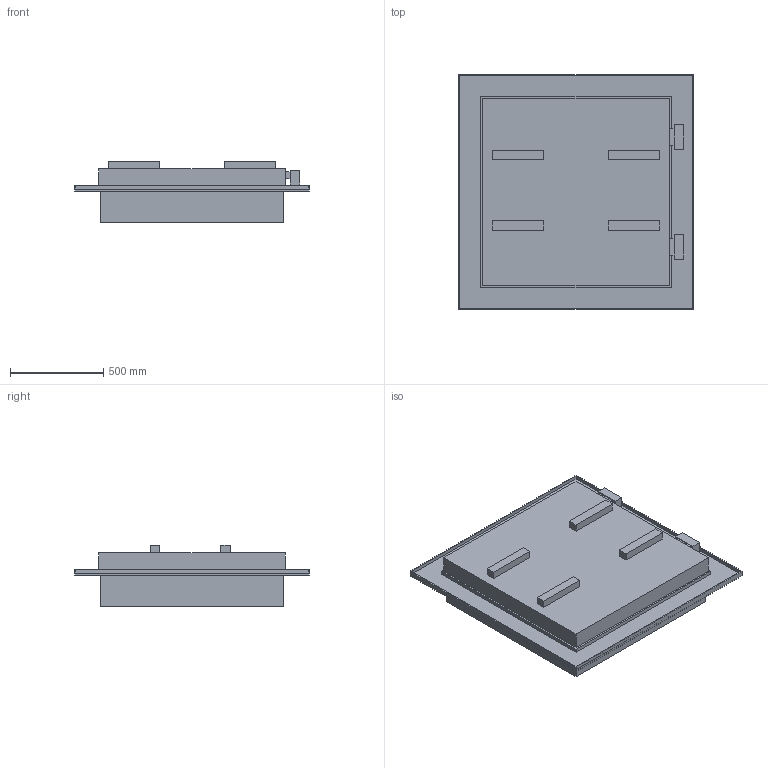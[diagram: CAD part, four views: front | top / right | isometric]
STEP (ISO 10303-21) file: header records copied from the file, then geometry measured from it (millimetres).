
FILE_DESCRIPTION((''),'2;1');
FILE_NAME('52147243','2023-10-31T08:03:51',('gm'),('HUBER SE'),'CREO PARAMETRIC BY PTC INC, 2022162','CREO PARAMETRIC BY PTC INC, 2022162','');
FILE_SCHEMA(('AUTOMOTIVE_DESIGN { 1 0 10303 214 1 1 1 1 }'));
Length unit declared in the file: millimetre
Products named in the file (1): 52147243
Bounding box: 1260 x 1260 x 330 mm (x, y, z)
Volume: 110796316 mm3; surface area: 5647992 mm2
Topology: 1 solids, 1 shells, 89 faces, 216 edges, 144 vertices
Faces by surface type: plane 89
Entity records: 3734 total; most frequent: CARTESIAN_POINT 451, ORIENTED_EDGE 432, DIRECTION 394, VECTOR 216, LINE 216, EDGE_CURVE 216, VERTEX_POINT 144, COLOUR_RGB 120
